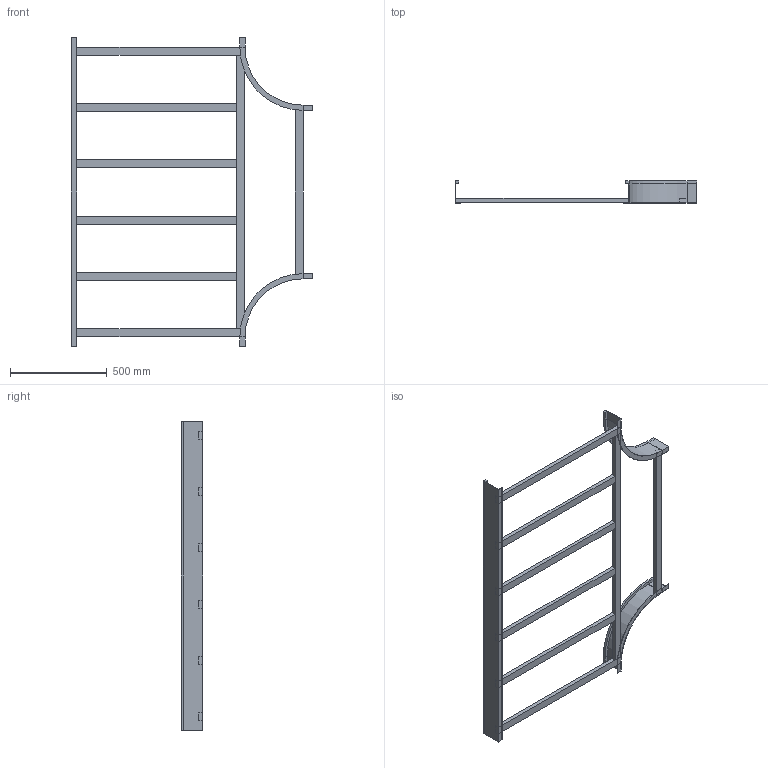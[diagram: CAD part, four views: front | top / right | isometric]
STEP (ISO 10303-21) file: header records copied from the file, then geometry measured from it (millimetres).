
FILE_DESCRIPTION (( 'STEP AP214' ), '1' );
FILE_NAME ('B2_15B3J900.step', '2025-02-21T15:52:23', ( '' ), ( '' ), 'SwSTEP 2.0', 'SolidWorks 2023', '' );
FILE_SCHEMA (( 'AUTOMOTIVE_DESIGN' ));
Length unit declared in the file: millimetre
Products named in the file (6): B2_LONGH.INTERNO 90°_H112.5_R300; B2_TRAVERSINO_LONG._R300+900; TRAVERSINO_INTERMEDIO_R300+900; B2_15B3J900; TRAVERSINO_900; B2_LONGH.RETT_H112.5_R300+900
Assembly tree (11 placements, depth 2):
  B2_15B3J900
    B2_LONGH.INTERNO 90°_H112.5_R300  x2
    B2_LONGH.RETT_H112.5_R300+900
    TRAVERSINO_900  x3
    B2_TRAVERSINO_LONG._R300+900
    TRAVERSINO_INTERMEDIO_R300+900  x4
Bounding box: 1250 x 112.5 x 1600 mm (x, y, z)
Volume: 7388243.5 mm3; surface area: 1784444.2 mm2
Topology: 11 solids, 11 shells, 110 faces, 232 edges, 144 vertices
Faces by surface type: plane 102, cylinder 8
Entity records: 1655 total; most frequent: DIRECTION 260, CARTESIAN_POINT 256, ORIENTED_EDGE 232, EDGE_CURVE 116, LINE 108, VECTOR 108, AXIS2_PLACEMENT_3D 76, VERTEX_POINT 72
